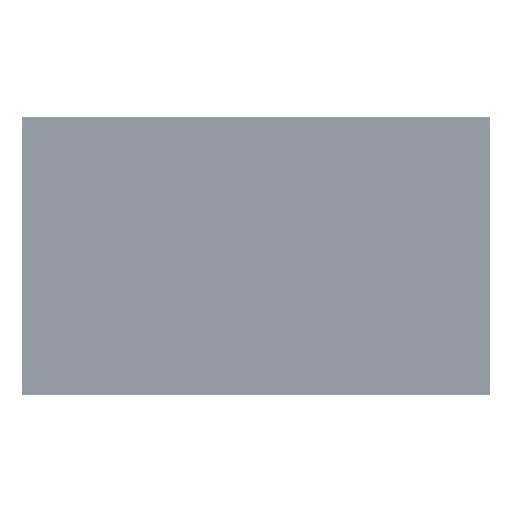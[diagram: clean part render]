
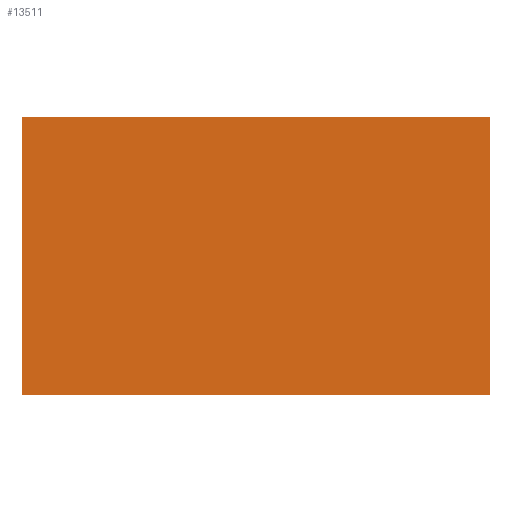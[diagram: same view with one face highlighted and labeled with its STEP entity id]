
A CAD part, left-side view. The second image highlights one B-rep face of the part: STEP entity #13511.
In plain terms, the highlighted planar face has unit normal (-1, 0, 0).
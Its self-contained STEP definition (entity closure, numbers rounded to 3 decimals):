
#159 = CARTESIAN_POINT ( 'NONE',  ( 93.604, 141.627, 50. ) ) ;
#548 = CARTESIAN_POINT ( 'NONE',  ( 93.604, 141.627, 0. ) ) ;
#1129 = EDGE_CURVE ( 'NONE', #11172, #9084, #1564, .T. ) ;
#1218 = VECTOR ( 'NONE', #7672, 1000. ) ;
#1557 = ORIENTED_EDGE ( 'NONE', *, *, #8908, .F. ) ;
#1564 = LINE ( 'NONE', #159, #1218 ) ;
#2161 = LINE ( 'NONE', #6813, #13255 ) ;
#2609 = ORIENTED_EDGE ( 'NONE', *, *, #5368, .T. ) ;
#2797 = VECTOR ( 'NONE', #13690, 1000. ) ;
#3084 = AXIS2_PLACEMENT_3D ( 'NONE', #12033, #4559, #12082 ) ;
#3470 = ORIENTED_EDGE ( 'NONE', *, *, #1129, .F. ) ;
#4227 = VECTOR ( 'NONE', #5934, 1000. ) ;
#4297 = VERTEX_POINT ( 'NONE', #9482 ) ;
#4323 = CARTESIAN_POINT ( 'NONE',  ( 93.604, 225.627, 0. ) ) ;
#4559 = DIRECTION ( 'NONE',  ( 1., 0., 0. ) ) ;
#5368 = EDGE_CURVE ( 'NONE', #13396, #9084, #12798, .T. ) ;
#5934 = DIRECTION ( 'NONE',  ( 0., -1., 0. ) ) ;
#6813 = CARTESIAN_POINT ( 'NONE',  ( 93.604, 141.627, 50. ) ) ;
#7009 = CARTESIAN_POINT ( 'NONE',  ( 93.604, 141.627, 50. ) ) ;
#7672 = DIRECTION ( 'NONE',  ( 0., 0., -1. ) ) ;
#8218 = CARTESIAN_POINT ( 'NONE',  ( 93.604, 141.627, 0. ) ) ;
#8885 = LINE ( 'NONE', #12619, #2797 ) ;
#8908 = EDGE_CURVE ( 'NONE', #4297, #11172, #2161, .T. ) ;
#9084 = VERTEX_POINT ( 'NONE', #8218 ) ;
#9482 = CARTESIAN_POINT ( 'NONE',  ( 93.604, 225.627, 50. ) ) ;
#11006 = PLANE ( 'NONE',  #3084 ) ;
#11172 = VERTEX_POINT ( 'NONE', #7009 ) ;
#11389 = ORIENTED_EDGE ( 'NONE', *, *, #13823, .T. ) ;
#12033 = CARTESIAN_POINT ( 'NONE',  ( 93.604, 141.627, 50. ) ) ;
#12082 = DIRECTION ( 'NONE',  ( 0., 0., -1. ) ) ;
#12563 = FACE_OUTER_BOUND ( 'NONE', #13856, .T. ) ;
#12619 = CARTESIAN_POINT ( 'NONE',  ( 93.604, 225.627, 50. ) ) ;
#12798 = LINE ( 'NONE', #548, #4227 ) ;
#13251 = DIRECTION ( 'NONE',  ( 0., -1., 0. ) ) ;
#13255 = VECTOR ( 'NONE', #13251, 1000. ) ;
#13396 = VERTEX_POINT ( 'NONE', #4323 ) ;
#13511 = ADVANCED_FACE ( 'NONE', ( #12563 ), #11006, .F. ) ;
#13690 = DIRECTION ( 'NONE',  ( 0., 0., -1. ) ) ;
#13823 = EDGE_CURVE ( 'NONE', #4297, #13396, #8885, .T. ) ;
#13856 = EDGE_LOOP ( 'NONE', ( #2609, #3470, #1557, #11389 ) ) ;
